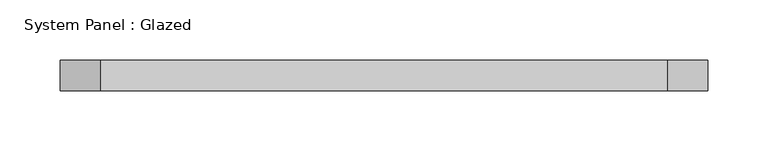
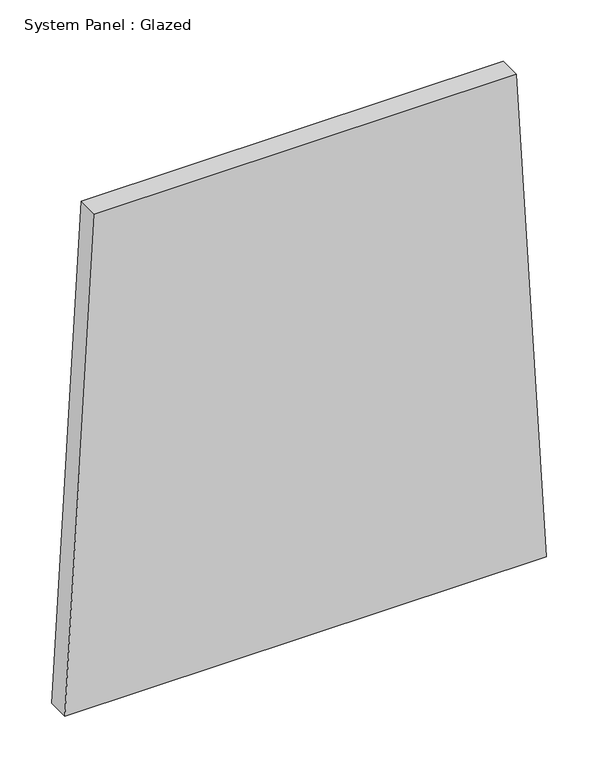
"""IFC4 building model written with IfcOpenShell, lengths in millimetres: plate geometry, System Panel : Glazed."""

from ifc_helpers import new_model, si_unit, frame, origin, place, context, project, spatial, polyline, outline, extrude, source, transform, mapped, element, save


def system_panel_glazed_17174457(model_context):
    return source(origin(), model_context, "Body", "SweptSolid", [
        extrude(outline(polyline([(0.0, -269.7625593), (0.0, 269.7625593), (583.2033204, 236.3720271), (583.2033204, -236.3720271), (0.0, -269.7625593)])), frame((0.0, -44.45, 0.0), z_axis=(0.0, 1.0, 0.0), x_axis=(0.0, 0.0, 1.0)), (0.0, 0.0, 1.0), 25.4),
    ])


if __name__ == "__main__":
    model = new_model("IFC4")
    model_context = context("Model", 3, world=origin())
    ifc_project = project(units=[si_unit("LENGTHUNIT", "METRE", prefix="MILLI")], contexts=[model_context])
    site = spatial("IfcSite", under=ifc_project)
    building = spatial("IfcBuilding", under=site)
    placement = place(None, origin())
    system_panel_glazed_shape = system_panel_glazed_17174457(model_context)
    element("IfcPlate", 1, ObjectType="System Panel : Glazed", at=placement, inside=building, context=model_context, shape_type="MappedRepresentation", body=[
        mapped(system_panel_glazed_shape, transform((0.0, 0.0, 0.0), x_axis=(1.0, 0.0, 0.0), y_axis=(0.0, 1.0, 0.0), z_axis=(0.0, 0.0, 1.0))),
    ])
    save(model, "model.ifc")
